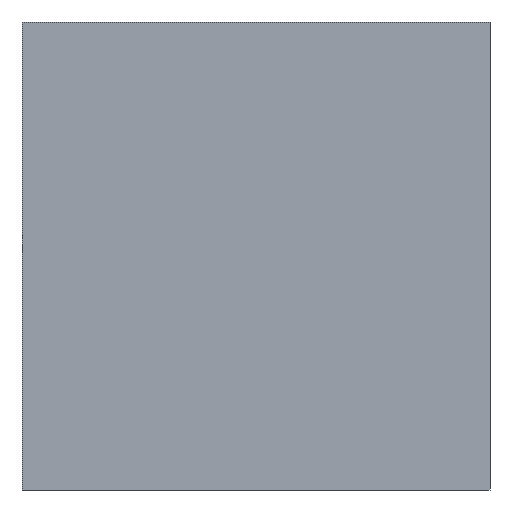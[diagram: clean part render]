
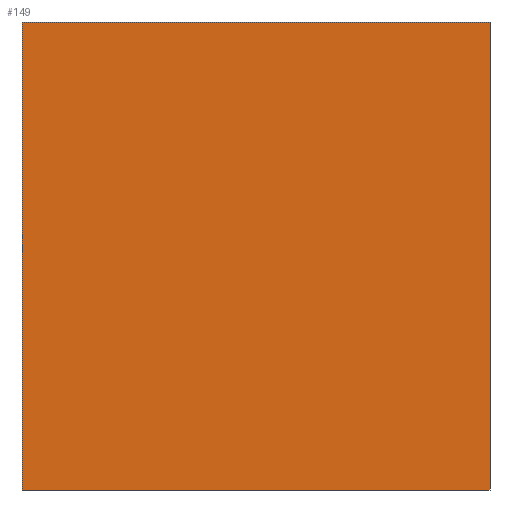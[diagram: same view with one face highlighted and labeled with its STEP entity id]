
A CAD part, front view. The second image highlights one B-rep face of the part: STEP entity #149.
In plain terms, the highlighted planar face has unit normal (0, -1, 0).
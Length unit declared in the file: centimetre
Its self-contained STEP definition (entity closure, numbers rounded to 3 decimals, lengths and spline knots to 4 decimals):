
#19 = EDGE_CURVE ( 'NONE', #341, #117, #72, .T. ) ;
#28 = EDGE_CURVE ( 'NONE', #275, #36, #139, .T. ) ;
#33 = CARTESIAN_POINT ( 'NONE',  ( 0., 0., 1000. ) ) ;
#34 = DIRECTION ( 'NONE',  ( 0., 1., 0. ) ) ;
#36 = VERTEX_POINT ( 'NONE', #400 ) ;
#66 = DIRECTION ( 'NONE',  ( 0., 0., 1. ) ) ;
#68 = DIRECTION ( 'NONE',  ( 1., 0., 0. ) ) ;
#72 = LINE ( 'NONE', #434, #90 ) ;
#90 = VECTOR ( 'NONE', #68, 100. ) ;
#99 = LINE ( 'NONE', #173, #256 ) ;
#117 = VERTEX_POINT ( 'NONE', #219 ) ;
#139 = LINE ( 'NONE', #323, #368 ) ;
#144 = EDGE_CURVE ( 'NONE', #341, #275, #99, .T. ) ;
#149 = ADVANCED_FACE ( 'NONE', ( #327 ), #365, .F. ) ;
#167 = CARTESIAN_POINT ( 'NONE',  ( 0., 0., 0. ) ) ;
#173 = CARTESIAN_POINT ( 'NONE',  ( 0., 0., 1000. ) ) ;
#209 = ORIENTED_EDGE ( 'NONE', *, *, #19, .F. ) ;
#210 = DIRECTION ( 'NONE',  ( 1., 0., 0. ) ) ;
#215 = AXIS2_PLACEMENT_3D ( 'NONE', #33, #34, #66 ) ;
#219 = CARTESIAN_POINT ( 'NONE',  ( 1000., 0., 1000. ) ) ;
#256 = VECTOR ( 'NONE', #367, 100. ) ;
#270 = CARTESIAN_POINT ( 'NONE',  ( 1000., 0., 1000. ) ) ;
#273 = CARTESIAN_POINT ( 'NONE',  ( 0., 0., 1000. ) ) ;
#275 = VERTEX_POINT ( 'NONE', #167 ) ;
#276 = LINE ( 'NONE', #270, #406 ) ;
#279 = EDGE_LOOP ( 'NONE', ( #417, #379, #209, #420 ) ) ;
#323 = CARTESIAN_POINT ( 'NONE',  ( 0., 0., 0. ) ) ;
#327 = FACE_OUTER_BOUND ( 'NONE', #279, .T. ) ;
#341 = VERTEX_POINT ( 'NONE', #273 ) ;
#365 = PLANE ( 'NONE',  #215 ) ;
#367 = DIRECTION ( 'NONE',  ( 0., 0., -1. ) ) ;
#368 = VECTOR ( 'NONE', #210, 100. ) ;
#379 = ORIENTED_EDGE ( 'NONE', *, *, #408, .F. ) ;
#400 = CARTESIAN_POINT ( 'NONE',  ( 1000., 0., 0. ) ) ;
#406 = VECTOR ( 'NONE', #410, 100. ) ;
#408 = EDGE_CURVE ( 'NONE', #117, #36, #276, .T. ) ;
#410 = DIRECTION ( 'NONE',  ( 0., 0., -1. ) ) ;
#417 = ORIENTED_EDGE ( 'NONE', *, *, #28, .T. ) ;
#420 = ORIENTED_EDGE ( 'NONE', *, *, #144, .T. ) ;
#434 = CARTESIAN_POINT ( 'NONE',  ( 0., 0., 1000. ) ) ;
